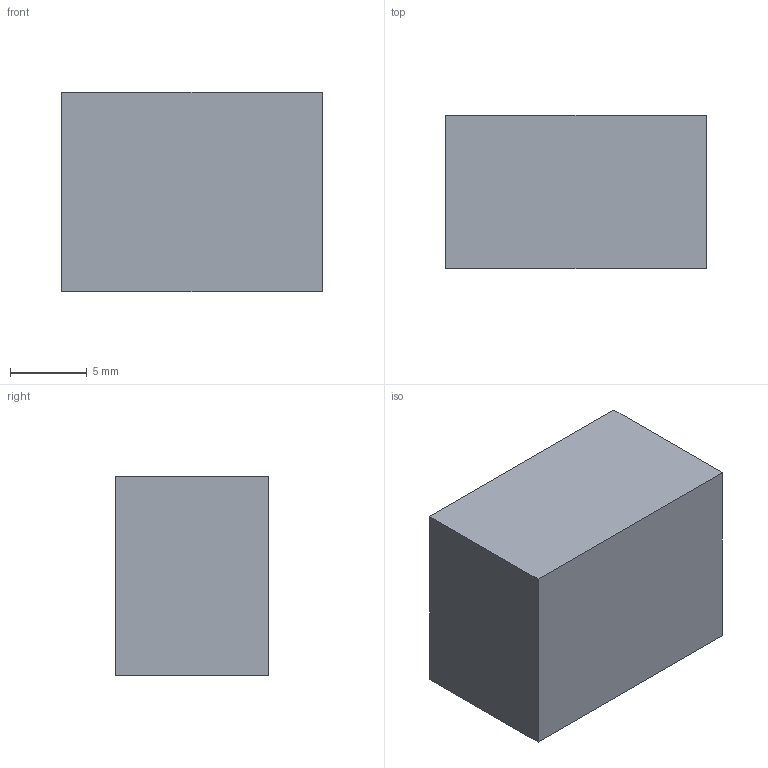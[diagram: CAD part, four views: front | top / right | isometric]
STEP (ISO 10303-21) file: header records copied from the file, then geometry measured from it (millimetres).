
FILE_DESCRIPTION(('Open CASCADE Model'),'2;1');
FILE_NAME('Open CASCADE Shape Model','2026-10-21T17:42:11',('Author'),( 'Open CASCADE'),'Open CASCADE STEP processor 8.0','build123d', 'Unknown');
FILE_SCHEMA(('AUTOMOTIVE_DESIGN { 1 0 10303 214 1 1 1 1 }'));
Length unit declared in the file: millimetre
Products named in the file (1): SOLID
Bounding box: 17 x 10 x 13 mm (x, y, z)
Volume: 1935.3 mm3; surface area: 1208.5 mm2
Topology: 1 solids, 1 shells, 10 faces, 24 edges, 16 vertices
Faces by surface type: plane 10
Entity records: 606 total; most frequent: CARTESIAN_POINT 103, DIRECTION 90, LINE 68, VECTOR 68, ORIENTED_EDGE 48, PCURVE 48, DEFINITIONAL_REPRESENTATION 48, EDGE_CURVE 24
